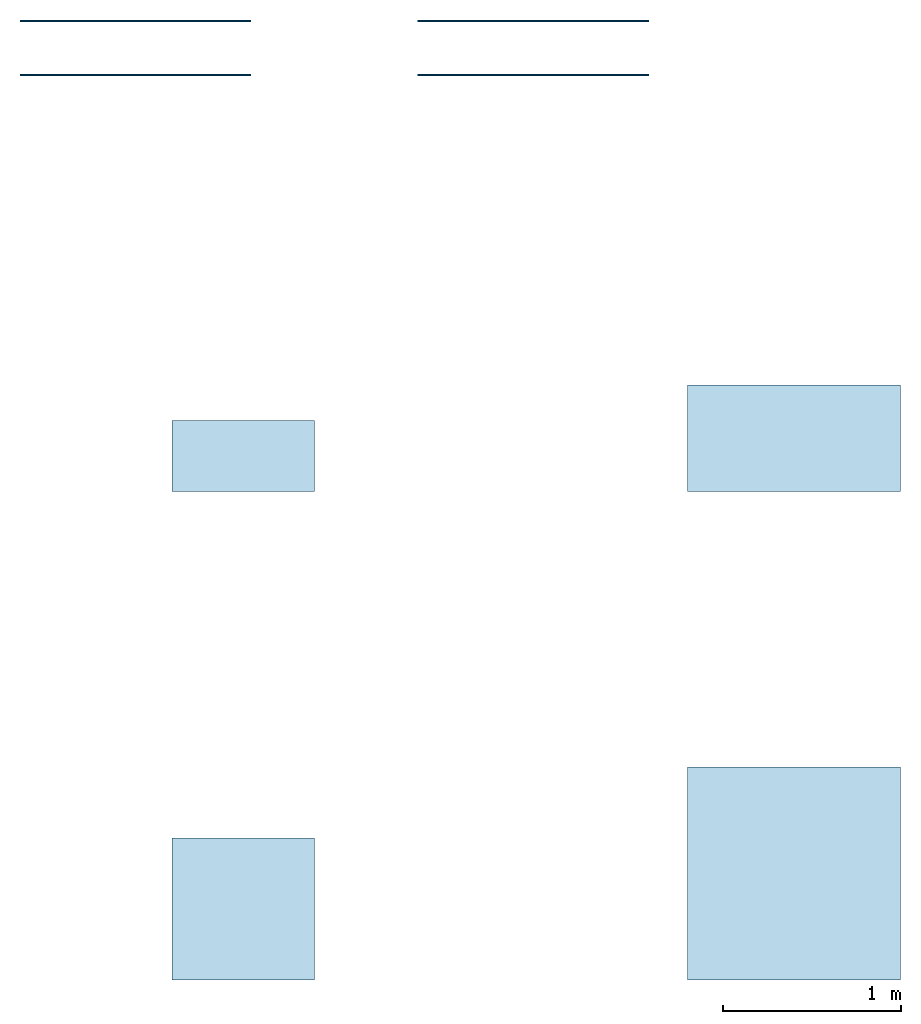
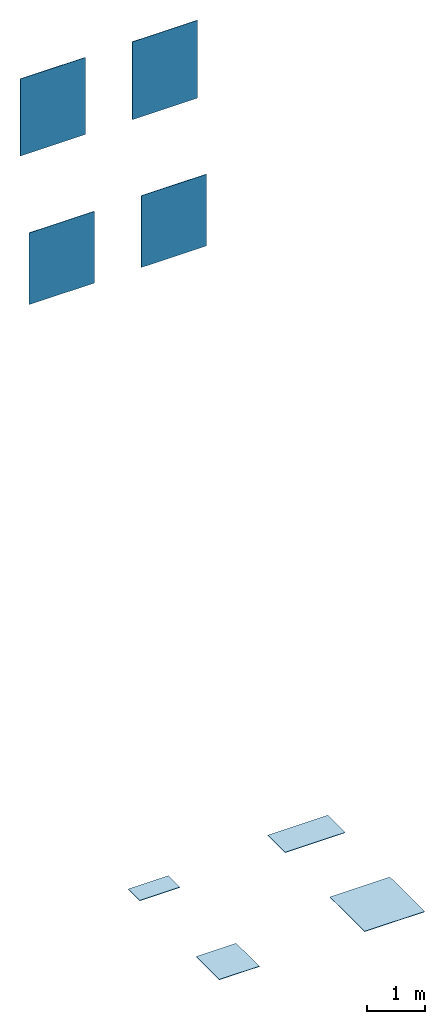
# One storey: 4 slabs, 4 walls.
"""IFC2X3 building model written with IfcOpenShell, lengths in millimetres."""

from ifc_helpers import new_model, entity, si_unit, converted_unit, derived_unit, direction, frame, frame_2d, origin, origin_2d_with_axis, place, context, subcontext, project, spatial, rectangle, extrude, material, layer, layer_set, layer_usage, type_object, element, save


model = new_model("IFC2X3")

# Units and contexts
model_context = context("Model", 3, precision=0.01, world=origin(), true_north=direction((6.12303176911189e-17, 1.0)))
body_context = subcontext(model_context, "Body", "Model", "MODEL_VIEW")
ifc_project = project(units=[si_unit("LENGTHUNIT", "METRE", prefix="MILLI"), si_unit("AREAUNIT", "SQUARE_METRE"), si_unit("VOLUMEUNIT", "CUBIC_METRE"), converted_unit("PLANEANGLEUNIT", "DEGREE", entity("IfcRatioMeasure", 0.0174532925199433), si_unit("PLANEANGLEUNIT", "RADIAN"), dimensions=[0, 0, 0, 0, 0, 0, 0]), si_unit("MASSUNIT", "GRAM", prefix="KILO"), derived_unit("MASSDENSITYUNIT", [(si_unit("MASSUNIT", "GRAM", prefix="KILO"), 1), (si_unit("LENGTHUNIT", "METRE"), -3)]), derived_unit("MOMENTOFINERTIAUNIT", [(si_unit("LENGTHUNIT", "METRE"), 4)]), si_unit("TIMEUNIT", "SECOND"), si_unit("FREQUENCYUNIT", "HERTZ"), si_unit("THERMODYNAMICTEMPERATUREUNIT", "DEGREE_CELSIUS"), derived_unit("THERMALTRANSMITTANCEUNIT", [(si_unit("MASSUNIT", "GRAM", prefix="KILO"), 1), (si_unit("THERMODYNAMICTEMPERATUREUNIT", "KELVIN"), -1), (si_unit("TIMEUNIT", "SECOND"), -3)]), derived_unit("VOLUMETRICFLOWRATEUNIT", [(si_unit("LENGTHUNIT", "METRE"), 3), (si_unit("TIMEUNIT", "SECOND"), -1)]), si_unit("ELECTRICCURRENTUNIT", "AMPERE"), si_unit("ELECTRICVOLTAGEUNIT", "VOLT"), si_unit("POWERUNIT", "WATT"), si_unit("FORCEUNIT", "NEWTON", prefix="KILO"), si_unit("ILLUMINANCEUNIT", "LUX"), si_unit("LUMINOUSFLUXUNIT", "LUMEN"), si_unit("LUMINOUSINTENSITYUNIT", "CANDELA"), derived_unit("USERDEFINED", [(si_unit("MASSUNIT", "GRAM", prefix="KILO"), -1), (si_unit("LENGTHUNIT", "METRE"), -2), (si_unit("TIMEUNIT", "SECOND"), 3), (si_unit("LUMINOUSFLUXUNIT", "LUMEN"), 1)]), derived_unit("LINEARVELOCITYUNIT", [(si_unit("LENGTHUNIT", "METRE"), 1), (si_unit("TIMEUNIT", "SECOND"), -1)]), si_unit("PRESSUREUNIT", "PASCAL"), derived_unit("USERDEFINED", [(si_unit("LENGTHUNIT", "METRE"), -2), (si_unit("MASSUNIT", "GRAM", prefix="KILO"), 1), (si_unit("TIMEUNIT", "SECOND"), -2)]), derived_unit("LINEARFORCEUNIT", [(si_unit("MASSUNIT", "GRAM", prefix="KILO"), 1), (si_unit("LENGTHUNIT", "METRE"), 1), (si_unit("TIMEUNIT", "SECOND"), -2), (si_unit("LENGTHUNIT", "METRE"), -1)]), derived_unit("PLANARFORCEUNIT", [(si_unit("MASSUNIT", "GRAM", prefix="KILO"), 1), (si_unit("LENGTHUNIT", "METRE"), 1), (si_unit("TIMEUNIT", "SECOND"), -2), (si_unit("LENGTHUNIT", "METRE"), -2)])], contexts=[model_context])

# Site, building, storey
site_placement = place(None, origin())
site = spatial("IfcSite", under=ifc_project, at=site_placement, Name="Default", CompositionType="ELEMENT")
building_placement = place(site_placement, origin())
building = spatial("IfcBuilding", under=site, at=building_placement, CompositionType="ELEMENT")
storey_placement = place(building_placement, origin())
storey = spatial("IfcBuildingStorey", under=building, at=storey_placement, Name="Level 0", CompositionType="ELEMENT", Elevation=0.0)

# Slabs
ifc_material_1 = material(Name="Affrescati-Ombra-40x80 OI69")
ifc_layer_1 = layer(ifc_material_1, 9.0)
ifc_material_2 = material(Name="<Unnamed>")
ifc_layer_2 = layer(ifc_material_2, 1.0)
ifc_layer_set_1 = layer_set([ifc_layer_1, ifc_layer_2], Name="Floor:Floor_Tiles_Refin-Affrescati-Ombra-40x80 OI69")
ifc_layer_usage_1 = layer_usage(ifc_layer_set_1, "AXIS3", "POSITIVE", 0.0)
slab_type_1 = type_object("IfcSlabType", Name="Floor:Floor_Tiles_Refin-Affrescati-Ombra-40x80 OI69", PredefinedType="FLOOR", material=ifc_layer_set_1)
slab_1_placement = place(storey_placement, origin())
element("IfcSlab", 1, at=slab_1_placement, inside=storey, type_object=slab_type_1, material=ifc_layer_usage_1, Name="Floor:Floor_Tiles_Refin-Affrescati-Ombra-40x80 OI69", ObjectType="Floor:Floor_Tiles_Refin-Affrescati-Ombra-40x80 OI69", PredefinedType="FLOOR", context=body_context, shape_type="SweptSolid", body=[
    extrude(rectangle(XDim=400.0, YDim=800.0, at=origin_2d_with_axis()), frame((7174.37520617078, 5688.41920639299, 0.0), z_axis=(0.0, 0.0, -1.0), x_axis=(0.0, 1.0, 0.0)), (0.0, 0.0, 1.0), 10.0),
])
ifc_material_3 = material(Name="Affrescati-Ombra-60x120 OH04")
ifc_layer_3 = layer(ifc_material_3, 9.0)
ifc_layer_4 = layer(ifc_material_2, 1.0)
ifc_layer_set_2 = layer_set([ifc_layer_3, ifc_layer_4], Name="Floor:Floor_Tiles_Refin-Affrescati-Ombra-60x120 OH04")
ifc_layer_usage_2 = layer_usage(ifc_layer_set_2, "AXIS3", "POSITIVE", 0.0)
slab_type_2 = type_object("IfcSlabType", Name="Floor:Floor_Tiles_Refin-Affrescati-Ombra-60x120 OH04", PredefinedType="FLOOR", material=ifc_layer_set_2)
slab_2_placement = place(storey_placement, origin())
element("IfcSlab", 2, at=slab_2_placement, inside=storey, type_object=slab_type_2, material=ifc_layer_usage_2, Name="Floor:Floor_Tiles_Refin-Affrescati-Ombra-60x120 OH04", ObjectType="Floor:Floor_Tiles_Refin-Affrescati-Ombra-60x120 OH04", PredefinedType="FLOOR", context=body_context, shape_type="SweptSolid", body=[
    extrude(rectangle(XDim=600.0, YDim=1200.0, at=origin_2d_with_axis()), frame((10274.3752061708, 5788.41920639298, 0.0), z_axis=(0.0, 0.0, -1.0), x_axis=(0.0, 1.0, 0.0)), (0.0, 0.0, 1.0), 10.0),
])
ifc_material_4 = material(Name="Affrescati-Ombra-80x80 OI01")
ifc_layer_5 = layer(ifc_material_4, 9.0)
ifc_layer_6 = layer(ifc_material_2, 1.0)
ifc_layer_set_3 = layer_set([ifc_layer_5, ifc_layer_6], Name="Floor:Floor_Tiles_Refin-Affrescati-Ombra-80x80 OI01")
ifc_layer_usage_3 = layer_usage(ifc_layer_set_3, "AXIS3", "POSITIVE", 0.0)
slab_type_3 = type_object("IfcSlabType", Name="Floor:Floor_Tiles_Refin-Affrescati-Ombra-80x80 OI01", PredefinedType="FLOOR", material=ifc_layer_set_3)
slab_3_placement = place(storey_placement, origin())
element("IfcSlab", 3, at=slab_3_placement, inside=storey, type_object=slab_type_3, material=ifc_layer_usage_3, Name="Floor:Floor_Tiles_Refin-Affrescati-Ombra-80x80 OI01", ObjectType="Floor:Floor_Tiles_Refin-Affrescati-Ombra-80x80 OI01", PredefinedType="FLOOR", context=body_context, shape_type="SweptSolid", body=[
    extrude(rectangle(XDim=800.0, YDim=800.0, at=origin_2d_with_axis()), frame((7174.37520617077, 3138.41920639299, 0.0), z_axis=(0.0, 0.0, -1.0), x_axis=(0.0, 1.0, 0.0)), (0.0, 0.0, 1.0), 10.0),
])
ifc_material_5 = material(Name="Affrescati-Ombra-120x120 OG68")
ifc_layer_7 = layer(ifc_material_5, 9.0)
ifc_layer_8 = layer(ifc_material_2, 1.0)
ifc_layer_set_4 = layer_set([ifc_layer_7, ifc_layer_8], Name="Floor:Floor_Tiles_Refin-Affrescati-Ombra-120x120 OG68")
ifc_layer_usage_4 = layer_usage(ifc_layer_set_4, "AXIS3", "POSITIVE", 0.0)
slab_type_4 = type_object("IfcSlabType", Name="Floor:Floor_Tiles_Refin-Affrescati-Ombra-120x120 OG68", PredefinedType="FLOOR", material=ifc_layer_set_4)
slab_4_placement = place(storey_placement, origin())
element("IfcSlab", 4, at=slab_4_placement, inside=storey, type_object=slab_type_4, material=ifc_layer_usage_4, Name="Floor:Floor_Tiles_Refin-Affrescati-Ombra-120x120 OG68", ObjectType="Floor:Floor_Tiles_Refin-Affrescati-Ombra-120x120 OG68", PredefinedType="FLOOR", context=body_context, shape_type="SweptSolid", body=[
    extrude(rectangle(XDim=1200.0, YDim=1200.0, at=origin_2d_with_axis()), frame((10274.3752061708, 3338.41920639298, 0.0), z_axis=(0.0, 0.0, -1.0), x_axis=(0.0, 1.0, 0.0)), (0.0, 0.0, 1.0), 10.0),
])

# Walls
ifc_layer_9 = layer(ifc_material_2, 1.0)
ifc_layer_10 = layer(ifc_material_3, 9.0)
ifc_layer_set_5 = layer_set([ifc_layer_9, ifc_layer_10], Name="Basic Wall:Wall_Tiles_Refin-Affrescati-Ombra-60x120 OH04")
ifc_layer_usage_5 = layer_usage(ifc_layer_set_5, "AXIS2", "NEGATIVE", 5.0)
wall_type_1 = type_object("IfcWallType", Name="Basic Wall:Wall_Tiles_Refin-Affrescati-Ombra-60x120 OH04", PredefinedType="STANDARD", material=ifc_layer_set_5)
wall_1_placement = place(storey_placement, frame((8157.37520617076, 8137.38386313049, 14387.6770443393)))
element("IfcWallStandardCase", 5, at=wall_1_placement, inside=storey, type_object=wall_type_1, material=ifc_layer_usage_5, Name="Basic Wall:Wall_Tiles_Refin-Affrescati-Ombra-60x120 OH04", ObjectType="Basic Wall:Wall_Tiles_Refin-Affrescati-Ombra-60x120 OH04", context=body_context, shape_type="SweptSolid", body=[
    extrude(rectangle(XDim=1300.0, YDim=9.99999999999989, at=frame_2d((650.0, 7.63833440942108e-14), x_axis=(-1.0, 0.0))), origin(), (0.0, 0.0, 1.0), 1641.74173522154),
])
ifc_layer_11 = layer(ifc_material_2, 1.0)
ifc_layer_12 = layer(ifc_material_1, 9.0)
ifc_layer_set_6 = layer_set([ifc_layer_11, ifc_layer_12], Name="Basic Wall:Wall_Tiles_Refin-Affrescati-Ombra-40x80 OI69")
ifc_layer_usage_6 = layer_usage(ifc_layer_set_6, "AXIS2", "NEGATIVE", 5.0)
wall_type_2 = type_object("IfcWallType", Name="Basic Wall:Wall_Tiles_Refin-Affrescati-Ombra-40x80 OI69", PredefinedType="STANDARD", material=ifc_layer_set_6)
wall_2_placement = place(storey_placement, frame((5917.37520617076, 8137.38386313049, 14403.726734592)))
element("IfcWallStandardCase", 6, at=wall_2_placement, inside=storey, type_object=wall_type_2, material=ifc_layer_usage_6, Name="Basic Wall:Wall_Tiles_Refin-Affrescati-Ombra-40x80 OI69", ObjectType="Basic Wall:Wall_Tiles_Refin-Affrescati-Ombra-40x80 OI69", context=body_context, shape_type="SweptSolid", body=[
    extrude(rectangle(XDim=1300.0, YDim=9.99999999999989, at=frame_2d((650.0, 7.63833440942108e-14), x_axis=(-1.0, 0.0))), origin(), (0.0, 0.0, 1.0), 1625.69204496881),
])
ifc_layer_13 = layer(ifc_material_2, 1.0)
ifc_layer_14 = layer(ifc_material_4, 9.0)
ifc_layer_set_7 = layer_set([ifc_layer_13, ifc_layer_14], Name="Basic Wall:Wall_Tiles_Refin-Affrescati-Ombra-80x80 OI01")
ifc_layer_usage_7 = layer_usage(ifc_layer_set_7, "AXIS2", "NEGATIVE", 5.0)
wall_type_3 = type_object("IfcWallType", Name="Basic Wall:Wall_Tiles_Refin-Affrescati-Ombra-80x80 OI01", PredefinedType="STANDARD", material=ifc_layer_set_7)
wall_3_placement = place(storey_placement, frame((5917.37520617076, 7832.38386313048, 11452.5436262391)))
element("IfcWallStandardCase", 7, at=wall_3_placement, inside=storey, type_object=wall_type_3, material=ifc_layer_usage_7, Name="Basic Wall:Wall_Tiles_Refin-Affrescati-Ombra-80x80 OI01", ObjectType="Basic Wall:Wall_Tiles_Refin-Affrescati-Ombra-80x80 OI01", context=body_context, shape_type="SweptSolid", body=[
    extrude(rectangle(XDim=1300.0, YDim=9.99999999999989, at=frame_2d((650.0, 0.0), x_axis=(-1.0, 0.0))), origin(), (0.0, 0.0, 1.0), 1513.19855655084),
])
ifc_layer_15 = layer(ifc_material_2, 1.0)
ifc_layer_16 = layer(ifc_material_5, 9.0)
ifc_layer_set_8 = layer_set([ifc_layer_15, ifc_layer_16], Name="Basic Wall:Wall_Tiles_Refin-Affrescati-Ombra-120x120 OG68")
ifc_layer_usage_8 = layer_usage(ifc_layer_set_8, "AXIS2", "NEGATIVE", 5.0)
wall_type_4 = type_object("IfcWallType", Name="Basic Wall:Wall_Tiles_Refin-Affrescati-Ombra-120x120 OG68", PredefinedType="STANDARD", material=ifc_layer_set_8)
wall_4_placement = place(storey_placement, frame((8157.37520617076, 7832.38386313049, 11452.5436262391)))
element("IfcWallStandardCase", 8, at=wall_4_placement, inside=storey, type_object=wall_type_4, material=ifc_layer_usage_8, Name="Basic Wall:Wall_Tiles_Refin-Affrescati-Ombra-120x120 OG68", ObjectType="Basic Wall:Wall_Tiles_Refin-Affrescati-Ombra-120x120 OG68", context=body_context, shape_type="SweptSolid", body=[
    extrude(rectangle(XDim=1300.0, YDim=9.99999999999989, at=frame_2d((650.0, 0.0), x_axis=(-1.0, 0.0))), origin(), (0.0, 0.0, 1.0), 1513.19855655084),
])

save(model, "model.ifc")
